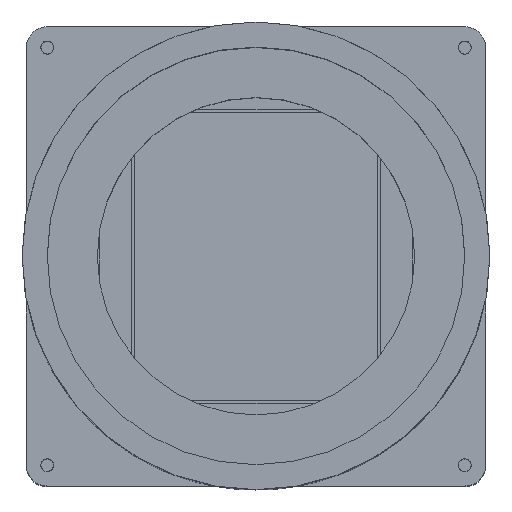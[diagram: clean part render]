
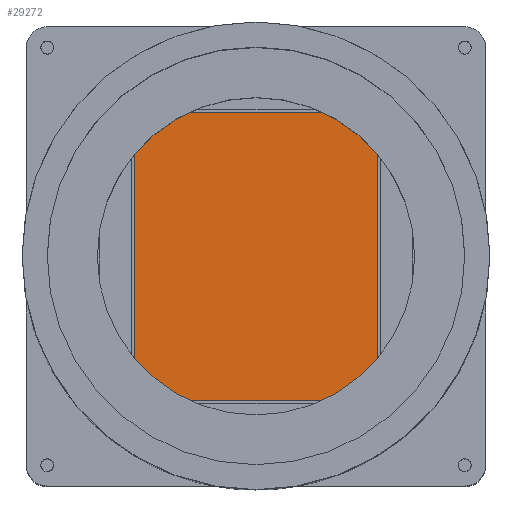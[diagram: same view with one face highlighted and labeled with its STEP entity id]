
A CAD part, top view. The second image highlights one B-rep face of the part: STEP entity #29272.
In plain terms, the highlighted planar face has unit normal (0, 0, 1).
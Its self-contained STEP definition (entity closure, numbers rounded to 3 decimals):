
#2233=PLANE('',#31906);
#3379=FACE_OUTER_BOUND('',#5208,.T.);
#5208=EDGE_LOOP('',(#23100,#23101,#23102,#23103));
#7484=LINE('',#45388,#9868);
#7487=LINE('',#45394,#9871);
#7490=LINE('',#45400,#9874);
#7493=LINE('',#45404,#9877);
#9868=VECTOR('',#37215,10.);
#9871=VECTOR('',#37220,10.);
#9874=VECTOR('',#37225,10.);
#9877=VECTOR('',#37230,10.);
#13644=VERTEX_POINT('',#45385);
#13645=VERTEX_POINT('',#45387);
#13647=VERTEX_POINT('',#45393);
#13649=VERTEX_POINT('',#45399);
#17064=EDGE_CURVE('',#13645,#13644,#7484,.T.);
#17067=EDGE_CURVE('',#13647,#13645,#7487,.T.);
#17070=EDGE_CURVE('',#13649,#13647,#7490,.T.);
#17073=EDGE_CURVE('',#13644,#13649,#7493,.T.);
#23100=ORIENTED_EDGE('',*,*,#17073,.T.);
#23101=ORIENTED_EDGE('',*,*,#17070,.T.);
#23102=ORIENTED_EDGE('',*,*,#17067,.T.);
#23103=ORIENTED_EDGE('',*,*,#17064,.T.);
#29272=ADVANCED_FACE('',(#3379),#2233,.T.);
#31906=AXIS2_PLACEMENT_3D('',#45405,#37231,#37232);
#37215=DIRECTION('',(0.,-1.,0.));
#37220=DIRECTION('',(-1.,0.,0.));
#37225=DIRECTION('',(0.,1.,0.));
#37230=DIRECTION('',(1.,0.,0.));
#37231=DIRECTION('center_axis',(0.,0.,1.));
#37232=DIRECTION('ref_axis',(1.,0.,0.));
#45385=CARTESIAN_POINT('',(-14.55,-17.25,3.975));
#45387=CARTESIAN_POINT('',(-14.55,17.25,3.975));
#45388=CARTESIAN_POINT('',(-14.55,17.25,3.975));
#45393=CARTESIAN_POINT('',(14.55,17.25,3.975));
#45394=CARTESIAN_POINT('',(14.55,17.25,3.975));
#45399=CARTESIAN_POINT('',(14.55,-17.25,3.975));
#45400=CARTESIAN_POINT('',(14.55,-17.25,3.975));
#45404=CARTESIAN_POINT('',(-14.55,-17.25,3.975));
#45405=CARTESIAN_POINT('Origin',(0.,0.,
3.975));
